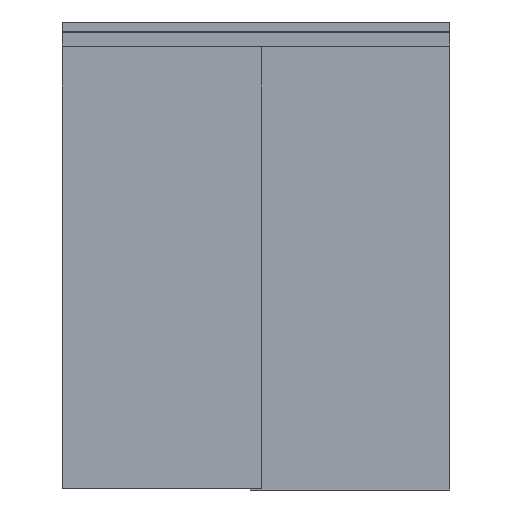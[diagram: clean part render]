
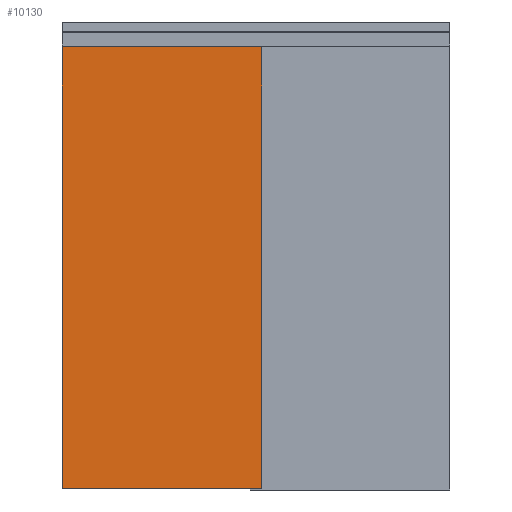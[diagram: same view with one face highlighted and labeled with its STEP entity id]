
A CAD part, front view. The second image highlights one B-rep face of the part: STEP entity #10130.
In plain terms, the highlighted planar face has unit normal (0, -1, 0).
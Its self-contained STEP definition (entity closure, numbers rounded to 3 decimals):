
#10130=ADVANCED_FACE('',(#17191),#17192,.T.);
#17191=FACE_OUTER_BOUND('',#27637,.T.);
#17192=PLANE('',#27638);
#27637=EDGE_LOOP('',(#32170,#32171,#32172,#32173));
#27638=AXIS2_PLACEMENT_3D('',#32174,#32175,#32176);
#32170=ORIENTED_EDGE('',*,*,#40265,.T.);
#32171=ORIENTED_EDGE('',*,*,#40222,.F.);
#32172=ORIENTED_EDGE('',*,*,#40261,.T.);
#32173=ORIENTED_EDGE('',*,*,#40243,.T.);
#32174=CARTESIAN_POINT('',(250.0,-20.0,7.));
#32175=DIRECTION('',(0.0,-1.0,0.0));
#32176=DIRECTION('',(1.0,0.0,0.0));
#40222=EDGE_CURVE('',#45324,#45326,#45327,.T.);
#40243=EDGE_CURVE('',#45353,#45351,#45354,.T.);
#40261=EDGE_CURVE('',#45324,#45353,#45378,.T.);
#40265=EDGE_CURVE('',#45351,#45326,#45382,.T.);
#45324=VERTEX_POINT('',#46842);
#45326=VERTEX_POINT('',#46845);
#45327=LINE('',#46846,#46847);
#45351=VERTEX_POINT('',#46880);
#45353=VERTEX_POINT('',#46883);
#45354=LINE('',#46884,#46885);
#45378=LINE('',#46921,#46922);
#45382=LINE('',#46927,#46928);
#46842=CARTESIAN_POINT('',(0.0,-20.0,7.));
#46845=CARTESIAN_POINT('',(0.0,-20.0,2299.5));
#46846=CARTESIAN_POINT('',(0.0,-20.0,7.));
#46847=VECTOR('',#48423,1.0);
#46880=CARTESIAN_POINT('',(1030.0,-20.0,2299.5));
#46883=CARTESIAN_POINT('',(1030.0,-20.0,7.));
#46884=CARTESIAN_POINT('',(1030.0,-20.0,7.));
#46885=VECTOR('',#48443,1.0);
#46921=CARTESIAN_POINT('',(0.0,-20.0,7.));
#46922=VECTOR('',#48456,1.0);
#46927=CARTESIAN_POINT('',(0.0,-20.0,2299.5));
#46928=VECTOR('',#48458,1.0);
#48423=DIRECTION('',(0.0,0.0,1.0));
#48443=DIRECTION('',(0.0,0.0,1.0));
#48456=DIRECTION('',(1.0,0.0,0.0));
#48458=DIRECTION('',(-1.0,0.0,0.0));
